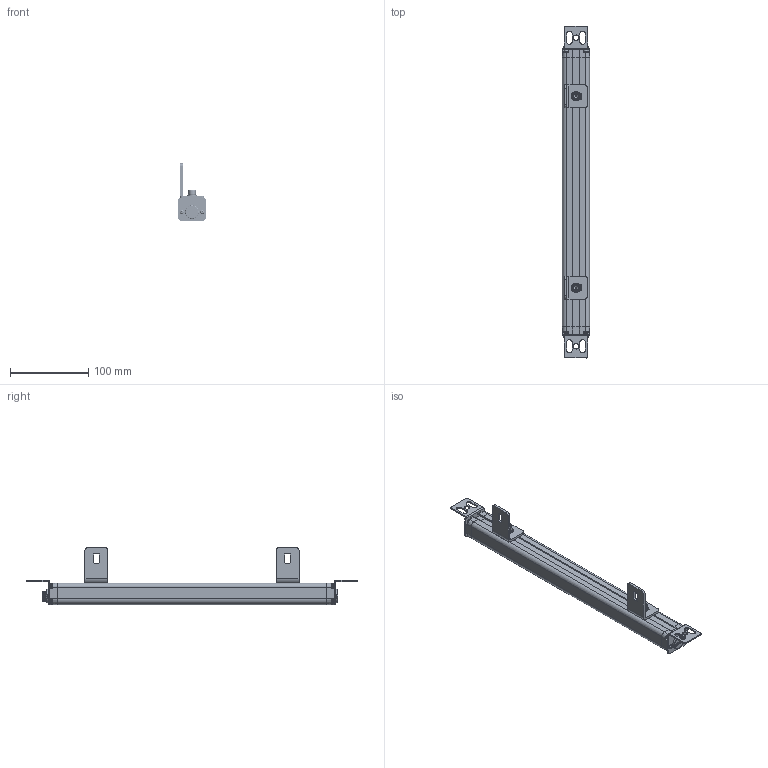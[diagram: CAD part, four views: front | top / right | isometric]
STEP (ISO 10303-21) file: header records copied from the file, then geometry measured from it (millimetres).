
FILE_DESCRIPTION((''),'2;1');
FILE_NAME('ELG-0440_ASM','2021-08-07T09:14:32',('18720616900'),(''),'CREO PARAMETRIC BY PTC INC, 2019010','CREO PARAMETRIC BY PTC INC, 2019010','');
FILE_SCHEMA(('CONFIG_CONTROL_DESIGN'));
Products named in the file (18): ELG--00; ELG--000; ELG000; M3--0001; 3000; 3--0001; ELG_30001_ASM; ST-3-12; L20001; M3-6; L10001; M6-1--00; M6-1-00; M6-8--0001; 00; L1--0001_ASM; ELG-0440_ASM
Assembly tree (34 placements, depth 3):
  ELG-0440_ASM
    ELG--00
    ELG--000
    ELG000
    ELG000
    M3--0001  x4
    ELG_30001_ASM
      3000
      3--0001  x3
    ST-3-12  x8
    L20001  x2
    M3-6  x4
    L1--0001_ASM  x2
      L10001
      M6-1--00
      M6-1-00
      M6-8--0001
      00
Bounding box: 35 x 425 x 73.4 mm (x, y, z)
Volume: 326974.2 mm3; surface area: 99411.6 mm2
Topology: 36 solids, 36 shells, 3404 faces, 9468 edges, 6167 vertices
Faces by surface type: cylinder 1928, plane 616, bspline 398, cone 353, torus 99, sphere 10
Entity records: 68753 total; most frequent: CARTESIAN_POINT 35026, ORIENTED_EDGE 7326, DIRECTION 6679, EDGE_CURVE 3663, AXIS2_PLACEMENT_3D 2530, VERTEX_POINT 2387, VECTOR 1619, LINE 1619
